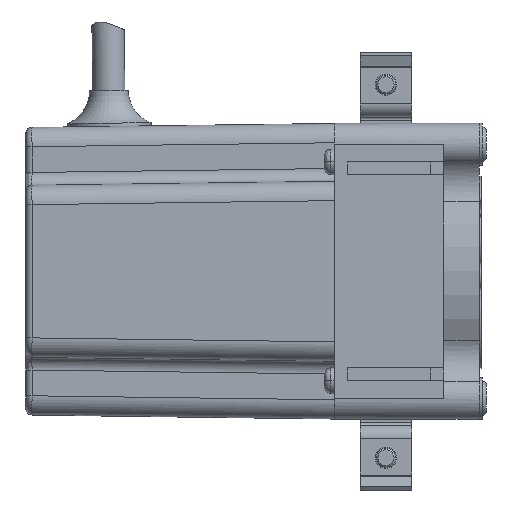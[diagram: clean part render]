
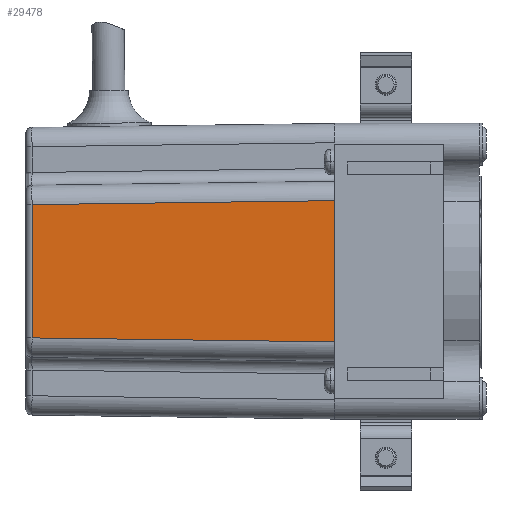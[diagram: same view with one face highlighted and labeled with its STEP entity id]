
A CAD part, front view. The second image highlights one B-rep face of the part: STEP entity #29478.
In plain terms, the highlighted planar face has unit normal (-0.013, -1, 0).
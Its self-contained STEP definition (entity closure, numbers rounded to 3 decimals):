
#8355=DIRECTION('',(-1.,0.013,0.013));
#8356=VECTOR('',#8355,47.021);
#8357=CARTESIAN_POINT('',(-15.,-22.974,-10.974));
#8358=LINE('',#8357,#8356);
#8359=DIRECTION('',(1.,-0.013,0.013));
#8360=VECTOR('',#8359,47.021);
#8361=CARTESIAN_POINT('',(-62.013,-22.358,
10.359));
#8362=LINE('',#8361,#8360);
#8363=DIRECTION('',(0.,0.,-1.));
#8364=VECTOR('',#8363,21.948);
#8365=CARTESIAN_POINT('',(-15.,-22.974,10.974));
#8366=LINE('',#8365,#8364);
#8367=CARTESIAN_POINT('',(-15.,-22.974,-10.974));
#8809=DIRECTION('',(0.,0.,-1.));
#8810=VECTOR('',#8809,20.717);
#8811=CARTESIAN_POINT('',(-62.013,-22.358,
10.359));
#8812=LINE('',#8811,#8810);
#18281=VERTEX_POINT('',#8367);
#18282=CARTESIAN_POINT('',(-15.,-22.974,10.974));
#18283=VERTEX_POINT('',#18282);
#18288=CARTESIAN_POINT('',(-62.013,-22.358,
10.359));
#18289=VERTEX_POINT('',#18288);
#18290=CARTESIAN_POINT('',(-62.013,-22.358,
-10.359));
#18291=VERTEX_POINT('',#18290);
#29465=CARTESIAN_POINT('',(-13.,-23.,14.));
#29466=DIRECTION('',(-0.013,-1.,0.));
#29467=DIRECTION('',(0.,0.,1.));
#29468=AXIS2_PLACEMENT_3D('',#29465,#29466,#29467);
#29469=PLANE('',#29468);
#29471=ORIENTED_EDGE('',*,*,#29470,.T.);
#29473=ORIENTED_EDGE('',*,*,#29472,.F.);
#29474=ORIENTED_EDGE('',*,*,#29457,.T.);
#29475=ORIENTED_EDGE('',*,*,#20592,.T.);
#29476=EDGE_LOOP('',(#29471,#29473,#29474,#29475));
#29477=FACE_OUTER_BOUND('',#29476,.F.);
#29478=ADVANCED_FACE('',(#29477),#29469,.T.);
#20592=EDGE_CURVE('',#18283,#18281,#8366,.T.);
#29457=EDGE_CURVE('',#18289,#18283,#8362,.T.);
#29470=EDGE_CURVE('',#18281,#18291,#8358,.T.);
#29472=EDGE_CURVE('',#18289,#18291,#8812,.T.);
